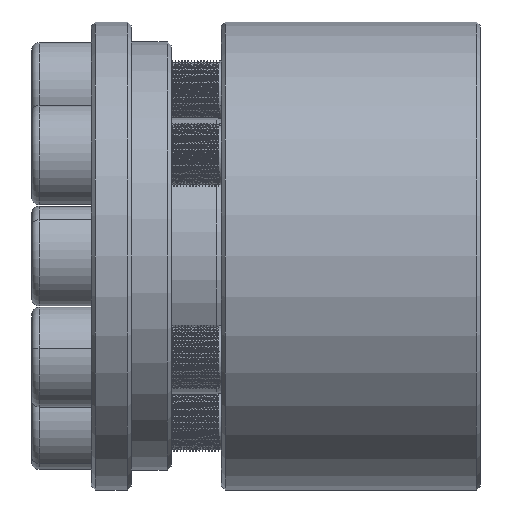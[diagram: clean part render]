
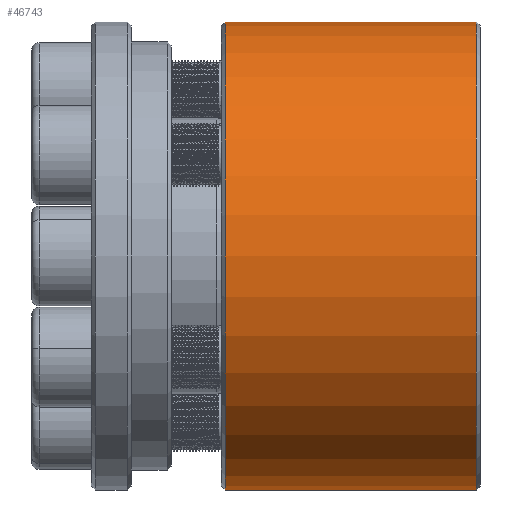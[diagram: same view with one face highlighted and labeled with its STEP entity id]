
A CAD part, front view. The second image highlights one B-rep face of the part: STEP entity #46743.
In plain terms, the highlighted cylindrical face has radius 23.46 mm (diameter 46.92 mm), a partial arc.
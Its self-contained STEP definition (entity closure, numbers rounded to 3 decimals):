
#221 = ORIENTED_EDGE ( 'NONE', *, *, #8810, .T. ) ;
#491 = AXIS2_PLACEMENT_3D ( 'NONE', #2992, #39471, #13372 ) ;
#1470 = FACE_OUTER_BOUND ( 'NONE', #37364, .T. ) ;
#1703 = CARTESIAN_POINT ( 'NONE',  ( -92.766, 26.04, 0. ) ) ;
#2477 = CARTESIAN_POINT ( 'NONE',  ( -92.766, 26.04, -23.46 ) ) ;
#2992 = CARTESIAN_POINT ( 'NONE',  ( -92.366, 26.04, 0. ) ) ;
#6539 = AXIS2_PLACEMENT_3D ( 'NONE', #29330, #45038, #11302 ) ;
#8810 = EDGE_CURVE ( 'NONE', #43878, #14249, #33287, .T. ) ;
#10456 = CARTESIAN_POINT ( 'NONE',  ( -67.166, 26.04, 23.46 ) ) ;
#11302 = DIRECTION ( 'NONE',  ( 0., 0., 1. ) ) ;
#11850 = CARTESIAN_POINT ( 'NONE',  ( -67.166, 26.04, -23.46 ) ) ;
#13315 = DIRECTION ( 'NONE',  ( 0., 0., 1. ) ) ;
#13372 = DIRECTION ( 'NONE',  ( 0., 0., -1. ) ) ;
#14249 = VERTEX_POINT ( 'NONE', #10456 ) ;
#15991 = VECTOR ( 'NONE', #37732, 1000. ) ;
#16459 = VECTOR ( 'NONE', #17488, 1000. ) ;
#16730 = DIRECTION ( 'NONE',  ( -1., 0., 0. ) ) ;
#17488 = DIRECTION ( 'NONE',  ( -1., 0., 0. ) ) ;
#20877 = EDGE_CURVE ( 'NONE', #29414, #24707, #22531, .T. ) ;
#22531 = CIRCLE ( 'NONE', #491, 23.46 ) ;
#22686 = CARTESIAN_POINT ( 'NONE',  ( -92.366, 26.04, -23.46 ) ) ;
#23870 = ORIENTED_EDGE ( 'NONE', *, *, #20877, .T. ) ;
#24707 = VERTEX_POINT ( 'NONE', #22686 ) ;
#26892 = CARTESIAN_POINT ( 'NONE',  ( -92.766, 26.04, 23.46 ) ) ;
#28620 = LINE ( 'NONE', #2477, #16459 ) ;
#29330 = CARTESIAN_POINT ( 'NONE',  ( -67.166, 26.04, 0. ) ) ;
#29414 = VERTEX_POINT ( 'NONE', #35013 ) ;
#30995 = ORIENTED_EDGE ( 'NONE', *, *, #44042, .T. ) ;
#33287 = CIRCLE ( 'NONE', #6539, 23.46 ) ;
#33774 = EDGE_CURVE ( 'NONE', #43878, #24707, #28620, .T. ) ;
#35013 = CARTESIAN_POINT ( 'NONE',  ( -92.366, 26.04, 23.46 ) ) ;
#35468 = CYLINDRICAL_SURFACE ( 'NONE', #35780, 23.46 ) ;
#35780 = AXIS2_PLACEMENT_3D ( 'NONE', #1703, #16730, #13315 ) ;
#37364 = EDGE_LOOP ( 'NONE', ( #47693, #221, #30995, #23870 ) ) ;
#37732 = DIRECTION ( 'NONE',  ( -1., 0., 0. ) ) ;
#39471 = DIRECTION ( 'NONE',  ( 1., 0., 0. ) ) ;
#41428 = LINE ( 'NONE', #26892, #15991 ) ;
#43878 = VERTEX_POINT ( 'NONE', #11850 ) ;
#44042 = EDGE_CURVE ( 'NONE', #14249, #29414, #41428, .T. ) ;
#45038 = DIRECTION ( 'NONE',  ( -1., 0., 0. ) ) ;
#46743 = ADVANCED_FACE ( 'NONE', ( #1470 ), #35468, .T. ) ;
#47693 = ORIENTED_EDGE ( 'NONE', *, *, #33774, .F. ) ;
